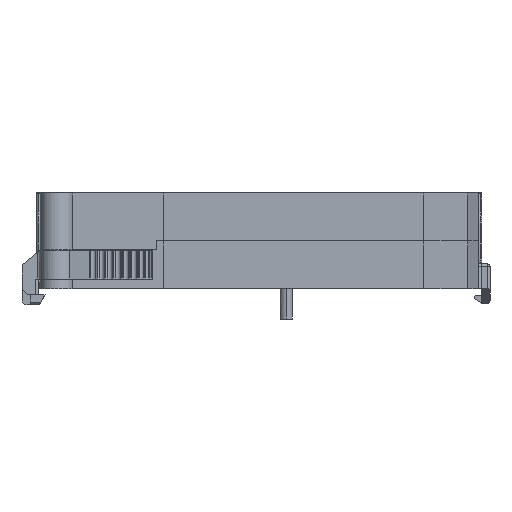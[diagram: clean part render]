
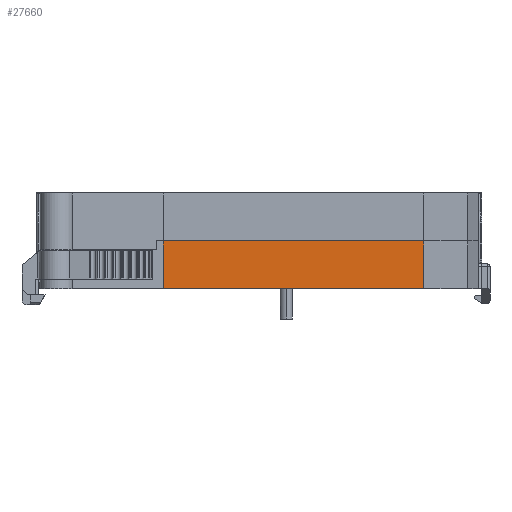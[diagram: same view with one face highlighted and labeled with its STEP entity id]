
A CAD part, front view. The second image highlights one B-rep face of the part: STEP entity #27660.
In plain terms, the highlighted planar face has unit normal (0, -1, 0).
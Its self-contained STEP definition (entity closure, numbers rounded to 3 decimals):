
#792 = EDGE_CURVE ( 'NONE', #26613, #36235, #44194, .T. ) ;
#1831 = ORIENTED_EDGE ( 'NONE', *, *, #4834, .T. ) ;
#2348 = FACE_OUTER_BOUND ( 'NONE', #22073, .T. ) ;
#3840 = DIRECTION ( 'NONE',  ( 0., 0., 1. ) ) ;
#4834 = EDGE_CURVE ( 'NONE', #36235, #7783, #9064, .T. ) ;
#5330 = ORIENTED_EDGE ( 'NONE', *, *, #8331, .T. ) ;
#7783 = VERTEX_POINT ( 'NONE', #24389 ) ;
#8331 = EDGE_CURVE ( 'NONE', #33893, #26613, #27277, .T. ) ;
#9064 = LINE ( 'NONE', #12828, #27295 ) ;
#10689 = VECTOR ( 'NONE', #11137, 1000. ) ;
#11137 = DIRECTION ( 'NONE',  ( 1., 0., 0. ) ) ;
#11954 = ORIENTED_EDGE ( 'NONE', *, *, #42181, .T. ) ;
#12828 = CARTESIAN_POINT ( 'NONE',  ( -13.5, 0., 1.7 ) ) ;
#16214 = AXIS2_PLACEMENT_3D ( 'NONE', #22014, #25659, #3840 ) ;
#16426 = VECTOR ( 'NONE', #45965, 1000. ) ;
#20184 = DIRECTION ( 'NONE',  ( 0., 0., -1. ) ) ;
#22014 = CARTESIAN_POINT ( 'NONE',  ( 0., 0., 1.7 ) ) ;
#22073 = EDGE_LOOP ( 'NONE', ( #5330, #46390, #1831, #11954 ) ) ;
#22103 = CARTESIAN_POINT ( 'NONE',  ( 34., 0., 8.75 ) ) ;
#22548 = VECTOR ( 'NONE', #42156, 1000. ) ;
#23847 = CARTESIAN_POINT ( 'NONE',  ( -13.5, 0., 8.75 ) ) ;
#24389 = CARTESIAN_POINT ( 'NONE',  ( -13.5, 0., 0. ) ) ;
#25659 = DIRECTION ( 'NONE',  ( 0., 1., 0. ) ) ;
#26613 = VERTEX_POINT ( 'NONE', #22103 ) ;
#27277 = LINE ( 'NONE', #35171, #16426 ) ;
#27295 = VECTOR ( 'NONE', #20184, 1000. ) ;
#27660 = ADVANCED_FACE ( 'NONE', ( #2348 ), #43808, .F. ) ;
#29259 = CARTESIAN_POINT ( 'NONE',  ( -13.5, 0., 8.75 ) ) ;
#32320 = CARTESIAN_POINT ( 'NONE',  ( 34., 0., 0. ) ) ;
#32962 = CARTESIAN_POINT ( 'NONE',  ( 0., 0., 0. ) ) ;
#33893 = VERTEX_POINT ( 'NONE', #32320 ) ;
#35171 = CARTESIAN_POINT ( 'NONE',  ( 34., 0., -13.019 ) ) ;
#36235 = VERTEX_POINT ( 'NONE', #29259 ) ;
#42156 = DIRECTION ( 'NONE',  ( -1., 0., 0. ) ) ;
#42181 = EDGE_CURVE ( 'NONE', #7783, #33893, #47130, .T. ) ;
#43808 = PLANE ( 'NONE',  #16214 ) ;
#44194 = LINE ( 'NONE', #23847, #22548 ) ;
#45965 = DIRECTION ( 'NONE',  ( 0., 0., 1. ) ) ;
#46390 = ORIENTED_EDGE ( 'NONE', *, *, #792, .T. ) ;
#47130 = LINE ( 'NONE', #32962, #10689 ) ;
